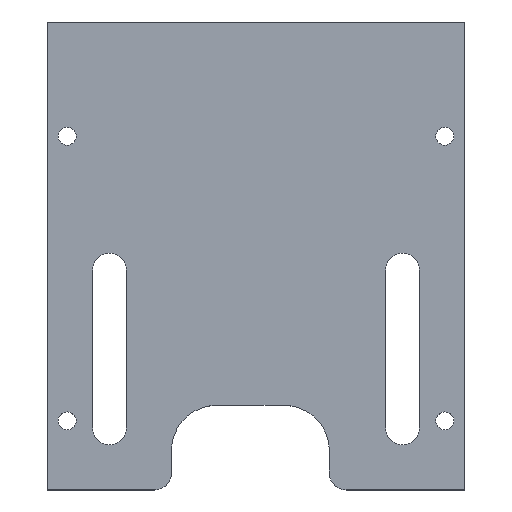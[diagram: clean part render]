
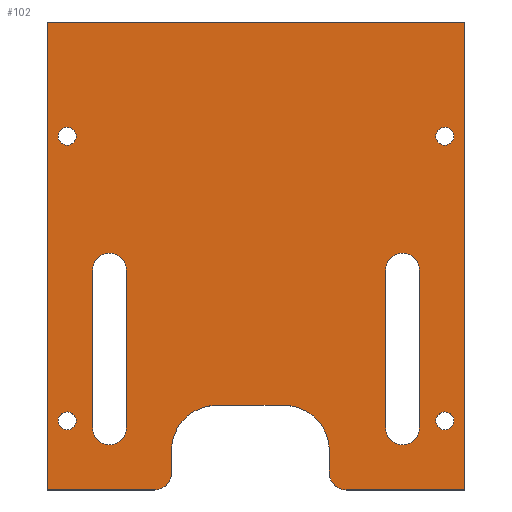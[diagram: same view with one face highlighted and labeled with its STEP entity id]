
A CAD part, top view. The second image highlights one B-rep face of the part: STEP entity #102.
In plain terms, the highlighted planar face has unit normal (0, 0, 1).
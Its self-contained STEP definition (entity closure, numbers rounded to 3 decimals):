
#61=FACE_BOUND('',#168,.T.);
#62=FACE_BOUND('',#169,.T.);
#63=FACE_BOUND('',#170,.T.);
#64=FACE_BOUND('',#171,.T.);
#65=FACE_BOUND('',#172,.T.);
#66=FACE_BOUND('',#173,.T.);
#67=FACE_BOUND('',#174,.T.);
#88=CIRCLE('',#557,3.);
#89=CIRCLE('',#558,8.);
#90=CIRCLE('',#559,8.);
#91=CIRCLE('',#560,3.);
#92=CIRCLE('',#561,1.6);
#93=CIRCLE('',#562,1.6);
#94=CIRCLE('',#563,1.6);
#95=CIRCLE('',#564,1.6);
#96=CIRCLE('',#565,3.);
#97=CIRCLE('',#566,3.);
#98=CIRCLE('',#567,3.);
#99=CIRCLE('',#568,3.);
#102=ADVANCED_FACE('',(#61,#62,#63,#64,#65,#66,#67),#128,.T.);
#128=PLANE('',#569);
#168=EDGE_LOOP('',(#230,#231,#232,#233,#234,#235,#236,#237,#238,#239,#240,
#241));
#169=EDGE_LOOP('',(#242));
#170=EDGE_LOOP('',(#243));
#171=EDGE_LOOP('',(#244));
#172=EDGE_LOOP('',(#245));
#173=EDGE_LOOP('',(#246,#247,#248,#249));
#174=EDGE_LOOP('',(#250,#251,#252,#253));
#230=ORIENTED_EDGE('',*,*,#388,.F.);
#231=ORIENTED_EDGE('',*,*,#413,.T.);
#232=ORIENTED_EDGE('',*,*,#414,.F.);
#233=ORIENTED_EDGE('',*,*,#415,.T.);
#234=ORIENTED_EDGE('',*,*,#416,.F.);
#235=ORIENTED_EDGE('',*,*,#417,.T.);
#236=ORIENTED_EDGE('',*,*,#418,.F.);
#237=ORIENTED_EDGE('',*,*,#419,.T.);
#238=ORIENTED_EDGE('',*,*,#420,.F.);
#239=ORIENTED_EDGE('',*,*,#421,.T.);
#240=ORIENTED_EDGE('',*,*,#422,.F.);
#241=ORIENTED_EDGE('',*,*,#423,.T.);
#242=ORIENTED_EDGE('',*,*,#424,.T.);
#243=ORIENTED_EDGE('',*,*,#425,.T.);
#244=ORIENTED_EDGE('',*,*,#426,.T.);
#245=ORIENTED_EDGE('',*,*,#427,.T.);
#246=ORIENTED_EDGE('',*,*,#428,.F.);
#247=ORIENTED_EDGE('',*,*,#429,.T.);
#248=ORIENTED_EDGE('',*,*,#430,.F.);
#249=ORIENTED_EDGE('',*,*,#431,.T.);
#250=ORIENTED_EDGE('',*,*,#432,.T.);
#251=ORIENTED_EDGE('',*,*,#433,.T.);
#252=ORIENTED_EDGE('',*,*,#434,.T.);
#253=ORIENTED_EDGE('',*,*,#435,.T.);
#340=VERTEX_POINT('',#744);
#341=VERTEX_POINT('',#746);
#364=VERTEX_POINT('',#796);
#365=VERTEX_POINT('',#798);
#366=VERTEX_POINT('',#800);
#367=VERTEX_POINT('',#802);
#368=VERTEX_POINT('',#804);
#369=VERTEX_POINT('',#806);
#370=VERTEX_POINT('',#808);
#371=VERTEX_POINT('',#810);
#372=VERTEX_POINT('',#812);
#373=VERTEX_POINT('',#814);
#374=VERTEX_POINT('',#817);
#375=VERTEX_POINT('',#819);
#376=VERTEX_POINT('',#821);
#377=VERTEX_POINT('',#823);
#378=VERTEX_POINT('',#825);
#379=VERTEX_POINT('',#826);
#380=VERTEX_POINT('',#828);
#381=VERTEX_POINT('',#830);
#382=VERTEX_POINT('',#833);
#383=VERTEX_POINT('',#834);
#384=VERTEX_POINT('',#836);
#385=VERTEX_POINT('',#838);
#388=EDGE_CURVE('',#340,#341,#456,.T.);
#413=EDGE_CURVE('',#340,#364,#88,.T.);
#414=EDGE_CURVE('',#365,#364,#469,.T.);
#415=EDGE_CURVE('',#365,#366,#89,.T.);
#416=EDGE_CURVE('',#367,#366,#470,.T.);
#417=EDGE_CURVE('',#367,#368,#90,.T.);
#418=EDGE_CURVE('',#369,#368,#471,.T.);
#419=EDGE_CURVE('',#369,#370,#91,.T.);
#420=EDGE_CURVE('',#371,#370,#472,.T.);
#421=EDGE_CURVE('',#371,#372,#473,.T.);
#422=EDGE_CURVE('',#373,#372,#474,.T.);
#423=EDGE_CURVE('',#373,#341,#475,.T.);
#424=EDGE_CURVE('',#374,#374,#92,.T.);
#425=EDGE_CURVE('',#375,#375,#93,.T.);
#426=EDGE_CURVE('',#376,#376,#94,.T.);
#427=EDGE_CURVE('',#377,#377,#95,.T.);
#428=EDGE_CURVE('',#378,#379,#476,.T.);
#429=EDGE_CURVE('',#378,#380,#96,.T.);
#430=EDGE_CURVE('',#381,#380,#477,.T.);
#431=EDGE_CURVE('',#381,#379,#97,.T.);
#432=EDGE_CURVE('',#382,#383,#98,.T.);
#433=EDGE_CURVE('',#383,#384,#478,.T.);
#434=EDGE_CURVE('',#384,#385,#99,.T.);
#435=EDGE_CURVE('',#385,#382,#479,.T.);
#456=LINE('',#745,#500);
#469=LINE('',#797,#513);
#470=LINE('',#801,#514);
#471=LINE('',#805,#515);
#472=LINE('',#809,#516);
#473=LINE('',#811,#517);
#474=LINE('',#813,#518);
#475=LINE('',#815,#519);
#476=LINE('',#824,#520);
#477=LINE('',#829,#521);
#478=LINE('',#835,#522);
#479=LINE('',#839,#523);
#500=VECTOR('',#597,1.);
#513=VECTOR('',#640,1.);
#514=VECTOR('',#643,1.);
#515=VECTOR('',#646,1.);
#516=VECTOR('',#649,1.);
#517=VECTOR('',#650,1.);
#518=VECTOR('',#651,1.);
#519=VECTOR('',#652,1.);
#520=VECTOR('',#661,1.);
#521=VECTOR('',#664,1.);
#522=VECTOR('',#669,1.);
#523=VECTOR('',#672,1.);
#557=AXIS2_PLACEMENT_3D('',#795,#638,#639);
#558=AXIS2_PLACEMENT_3D('',#799,#641,#642);
#559=AXIS2_PLACEMENT_3D('',#803,#644,#645);
#560=AXIS2_PLACEMENT_3D('',#807,#647,#648);
#561=AXIS2_PLACEMENT_3D('',#816,#653,#654);
#562=AXIS2_PLACEMENT_3D('',#818,#655,#656);
#563=AXIS2_PLACEMENT_3D('',#820,#657,#658);
#564=AXIS2_PLACEMENT_3D('',#822,#659,#660);
#565=AXIS2_PLACEMENT_3D('',#827,#662,#663);
#566=AXIS2_PLACEMENT_3D('',#831,#665,#666);
#567=AXIS2_PLACEMENT_3D('',#832,#667,#668);
#568=AXIS2_PLACEMENT_3D('',#837,#670,#671);
#569=AXIS2_PLACEMENT_3D('',#840,#673,#674);
#597=DIRECTION('',(-1.,0.,0.));
#638=DIRECTION('',(0.,0.,1.));
#639=DIRECTION('',(1.,0.,0.));
#640=DIRECTION('',(0.,-1.,0.));
#641=DIRECTION('',(0.,0.,-1.));
#642=DIRECTION('',(1.,0.,0.));
#643=DIRECTION('',(-1.,0.,0.));
#644=DIRECTION('',(0.,0.,-1.));
#645=DIRECTION('',(1.,0.,0.));
#646=DIRECTION('',(0.,1.,0.));
#647=DIRECTION('',(0.,0.,1.));
#648=DIRECTION('',(1.,0.,0.));
#649=DIRECTION('',(-1.,0.,0.));
#650=DIRECTION('',(0.,1.,0.));
#651=DIRECTION('',(1.,0.,0.));
#652=DIRECTION('',(0.,-1.,0.));
#653=DIRECTION('',(0.,0.,-1.));
#654=DIRECTION('',(1.,0.,0.));
#655=DIRECTION('',(0.,0.,-1.));
#656=DIRECTION('',(1.,0.,0.));
#657=DIRECTION('',(0.,0.,-1.));
#658=DIRECTION('',(1.,0.,0.));
#659=DIRECTION('',(0.,0.,-1.));
#660=DIRECTION('',(1.,0.,0.));
#661=DIRECTION('',(0.,1.,0.));
#662=DIRECTION('',(0.,0.,-1.));
#663=DIRECTION('',(1.,0.,0.));
#664=DIRECTION('',(0.,-1.,0.));
#665=DIRECTION('',(0.,0.,-1.));
#666=DIRECTION('',(1.,0.,0.));
#667=DIRECTION('',(0.,0.,-1.));
#668=DIRECTION('',(1.,0.,0.));
#669=DIRECTION('',(0.,-1.,0.));
#670=DIRECTION('',(0.,0.,-1.));
#671=DIRECTION('',(1.,0.,0.));
#672=DIRECTION('',(0.,1.,0.));
#673=DIRECTION('',(0.,0.,1.));
#674=DIRECTION('',(0.,-1.,0.));
#744=CARTESIAN_POINT('',(-16.355,-115.1,60.));
#745=CARTESIAN_POINT('',(1.1,-115.1,60.));
#746=CARTESIAN_POINT('',(-35.355,-115.1,60.));
#795=CARTESIAN_POINT('',(-16.355,-112.1,60.));
#796=CARTESIAN_POINT('',(-13.355,-112.1,60.));
#797=CARTESIAN_POINT('',(-13.355,-100.1,60.));
#798=CARTESIAN_POINT('',(-13.355,-108.1,60.));
#799=CARTESIAN_POINT('',(-5.355,-108.1,60.));
#800=CARTESIAN_POINT('',(-5.355,-100.1,60.));
#801=CARTESIAN_POINT('',(14.646,-100.1,60.));
#802=CARTESIAN_POINT('',(6.646,-100.1,60.));
#803=CARTESIAN_POINT('',(6.646,-108.1,60.));
#804=CARTESIAN_POINT('',(14.646,-108.1,60.));
#805=CARTESIAN_POINT('',(14.646,-115.1,60.));
#806=CARTESIAN_POINT('',(14.646,-112.1,60.));
#807=CARTESIAN_POINT('',(17.646,-112.1,60.));
#808=CARTESIAN_POINT('',(17.646,-115.1,60.));
#809=CARTESIAN_POINT('',(1.1,-115.1,60.));
#810=CARTESIAN_POINT('',(38.646,-115.1,60.));
#811=CARTESIAN_POINT('',(38.646,-88.1,60.));
#812=CARTESIAN_POINT('',(38.646,-32.1,60.));
#813=CARTESIAN_POINT('',(1.1,-32.1,60.));
#814=CARTESIAN_POINT('',(-35.355,-32.1,60.));
#815=CARTESIAN_POINT('',(-35.355,-88.1,60.));
#816=CARTESIAN_POINT('',(35.146,-102.85,60.));
#817=CARTESIAN_POINT('',(36.746,-102.85,60.));
#818=CARTESIAN_POINT('',(35.146,-52.35,60.));
#819=CARTESIAN_POINT('',(36.746,-52.35,60.));
#820=CARTESIAN_POINT('',(-31.855,-102.85,60.));
#821=CARTESIAN_POINT('',(-30.255,-102.85,60.));
#822=CARTESIAN_POINT('',(-31.855,-52.35,60.));
#823=CARTESIAN_POINT('',(-30.255,-52.35,60.));
#824=CARTESIAN_POINT('',(30.646,-88.1,60.));
#825=CARTESIAN_POINT('',(30.646,-104.1,60.));
#826=CARTESIAN_POINT('',(30.646,-76.1,60.));
#827=CARTESIAN_POINT('',(27.646,-104.1,60.));
#828=CARTESIAN_POINT('',(24.646,-104.1,60.));
#829=CARTESIAN_POINT('',(24.646,-88.1,60.));
#830=CARTESIAN_POINT('',(24.646,-76.1,60.));
#831=CARTESIAN_POINT('',(27.646,-76.1,60.));
#832=CARTESIAN_POINT('',(-24.355,-76.1,60.));
#833=CARTESIAN_POINT('',(-27.355,-76.1,60.));
#834=CARTESIAN_POINT('',(-21.355,-76.1,60.));
#835=CARTESIAN_POINT('',(-21.355,-88.1,60.));
#836=CARTESIAN_POINT('',(-21.355,-104.1,60.));
#837=CARTESIAN_POINT('',(-24.355,-104.1,60.));
#838=CARTESIAN_POINT('',(-27.355,-104.1,60.));
#839=CARTESIAN_POINT('',(-27.355,-88.1,60.));
#840=CARTESIAN_POINT('',(1.1,-88.1,60.));
